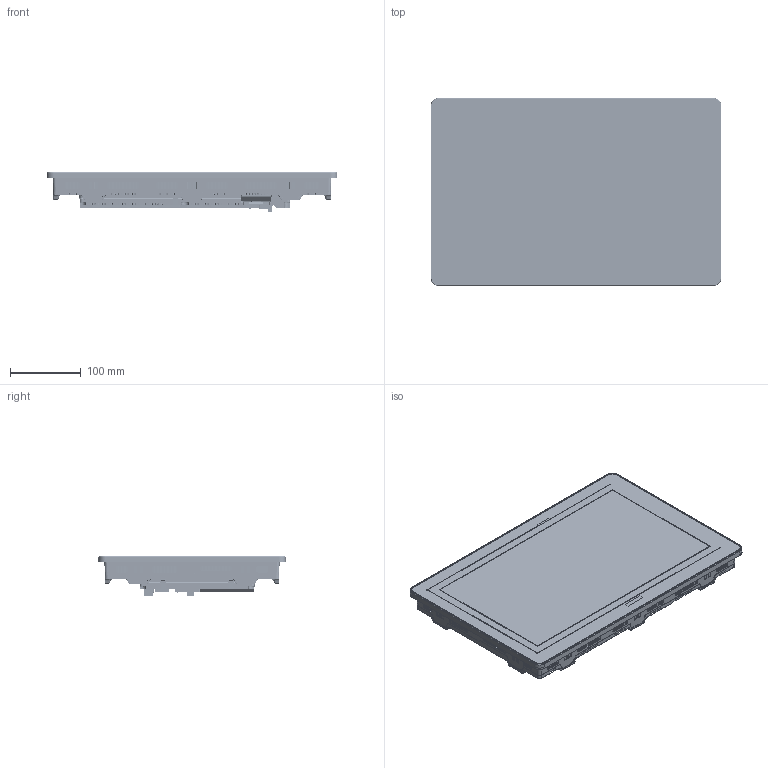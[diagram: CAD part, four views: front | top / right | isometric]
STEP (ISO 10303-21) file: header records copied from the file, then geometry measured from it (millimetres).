
FILE_DESCRIPTION (( 'STEP AP214' ), '1' );
FILE_NAME ('US15-xx-xxx_UniStream 15.6_3D.STEP', '2024-05-30T11:01:23', ( '' ), ( '' ), 'SwSTEP 2.0', 'SolidWorks 2022', '' );
FILE_SCHEMA (( 'AUTOMOTIVE_DESIGN' ));
Products named in the file (1): US15-xx-xxx_UniStream 15.6_3D
Bounding box: 411.09 x 265.09 x 56.9 mm (x, y, z)
Volume: 3905247.4 mm3; surface area: 459263.5 mm2
Topology: 1 solids, 51 shells, 7277 faces, 19554 edges, 12768 vertices
Faces by surface type: plane 4246, cylinder 1136, bspline 1001, cone 888, torus 4, sphere 2
Entity records: 302237 total; most frequent: CARTESIAN_POINT 137587, ORIENTED_EDGE 39098, DIRECTION 25805, EDGE_CURVE 19549, VERTEX_POINT 12768, LINE 11175, VECTOR 11175, EDGE_LOOP 7711
